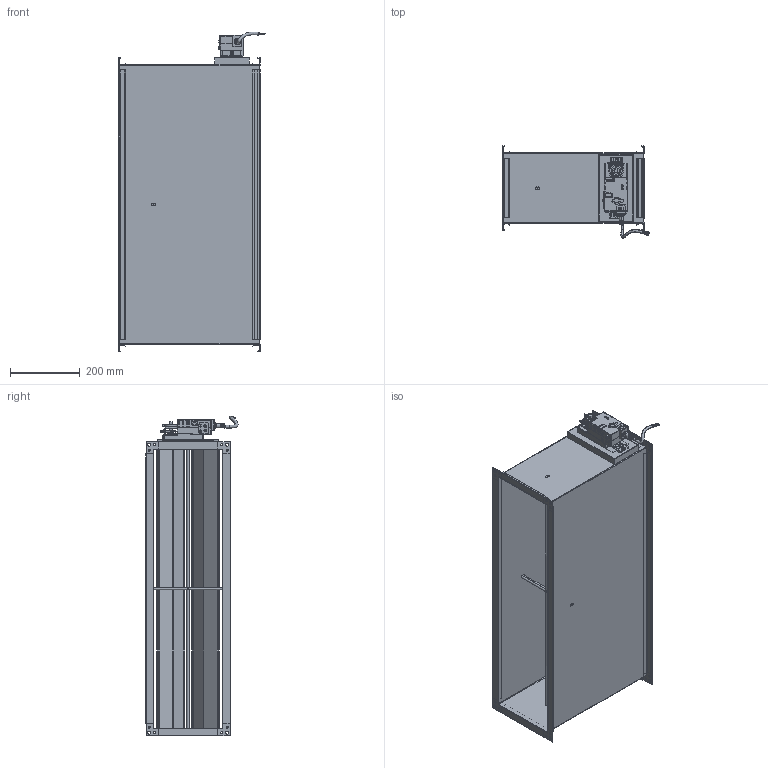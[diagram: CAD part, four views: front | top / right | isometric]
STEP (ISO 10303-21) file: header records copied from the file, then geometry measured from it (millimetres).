
FILE_DESCRIPTION (( 'STEP AP214' ), '1' );
FILE_NAME ('VAV-S800200.STEP', '2025-05-08T11:47:00', ( '' ), ( '' ), 'SwSTEP 2.0', 'SolidWorks 2025', '' );
FILE_SCHEMA (( 'AUTOMOTIVE_DESIGN' ));
Length unit declared in the file: millimetre
Products named in the file (1): VAV-S800200
Bounding box: 419.88 x 263.34 x 913.69 mm (x, y, z)
Surface area: 2821765.5 mm2 (no closed solid volume)
Topology: 0 solids, 48 shells, 2036 faces, 5284 edges, 3355 vertices
Faces by surface type: plane 1515, cylinder 468, bspline 24, sphere 18, cone 10, torus 1
Full cylindrical faces by diameter (mm): 1 x4, 6 x17, 8 x1, 9 x8, 11 x1, 20 x1, 21 x2
Entity records: 89608 total; most frequent: CARTESIAN_POINT 40986, ORIENTED_EDGE 10361, DIRECTION 6540, EDGE_CURVE 5204, VERTEX_POINT 3331, B_SPLINE_CURVE_WITH_KNOTS 3154, AXIS2_PLACEMENT_3D 2501, EDGE_LOOP 2236
